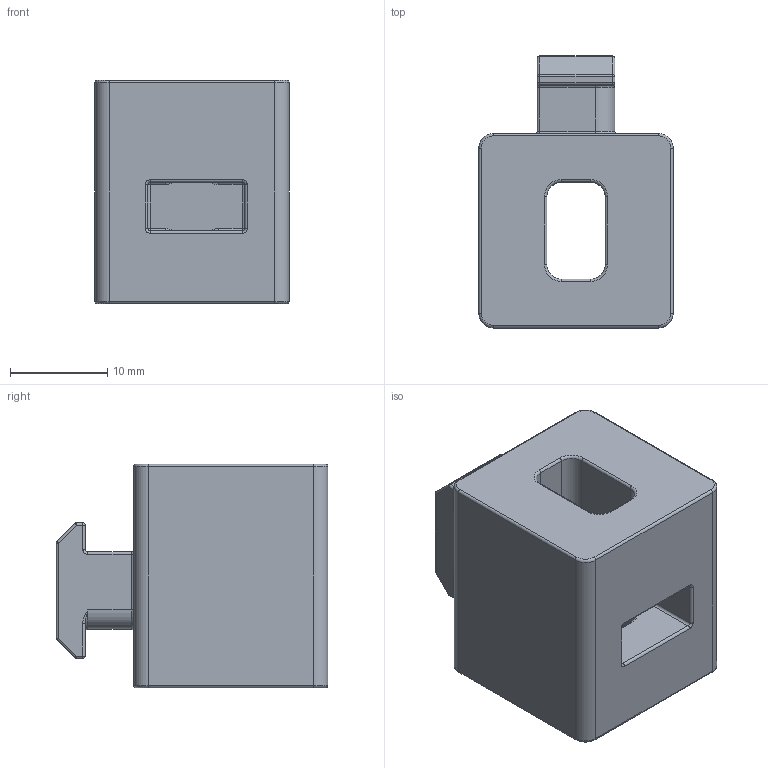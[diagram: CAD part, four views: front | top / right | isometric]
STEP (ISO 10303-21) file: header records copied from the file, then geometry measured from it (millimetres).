
FILE_DESCRIPTION (( 'STEP AP214' ), '1' );
FILE_NAME ('3007.STEP', '2015-04-16T08:49:36', ( '' ), ( '' ), 'SwSTEP 2.0', 'SolidWorks 2014', '' );
FILE_SCHEMA (( 'AUTOMOTIVE_DESIGN' ));
Length unit declared in the file: millimetre
Products named in the file (1): 3007
Bounding box: 20 x 28 x 23 mm (x, y, z)
Volume: 7972.5 mm3; surface area: 3626.8 mm2
Topology: 1 solids, 1 shells, 164 faces, 378 edges, 198 vertices
Faces by surface type: cylinder 78, torus 36, plane 28, sphere 16, bspline 6
Entity records: 4600 total; most frequent: CARTESIAN_POINT 901, DIRECTION 858, ORIENTED_EDGE 720, EDGE_CURVE 360, AXIS2_PLACEMENT_3D 351, VERTEX_POINT 198, CIRCLE 192, EDGE_LOOP 168
